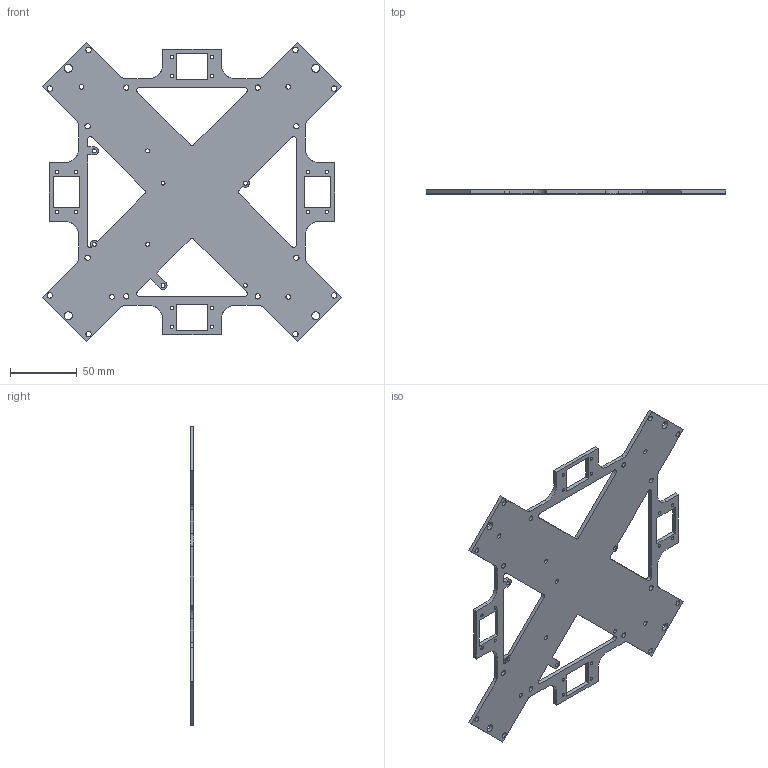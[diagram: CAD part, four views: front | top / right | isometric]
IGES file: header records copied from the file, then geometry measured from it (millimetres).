
Global section: file name: top-alum-plate v18; native system: unknown; preprocessor: unknown; author: unknown; organization: unknown; date: 20160222.121450; units: millimetre
Bounding box: 224.31 x 2.92 x 224.31 mm (x, y, z)
Volume: 81731.7 mm3; surface area: 64061.5 mm2
Topology: 1 solids, 1 shells, 149 faces, 441 edges, 294 vertices
Faces by surface type: bspline 149
